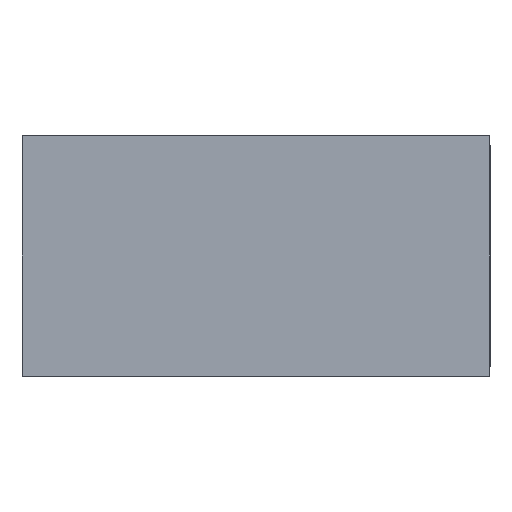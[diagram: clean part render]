
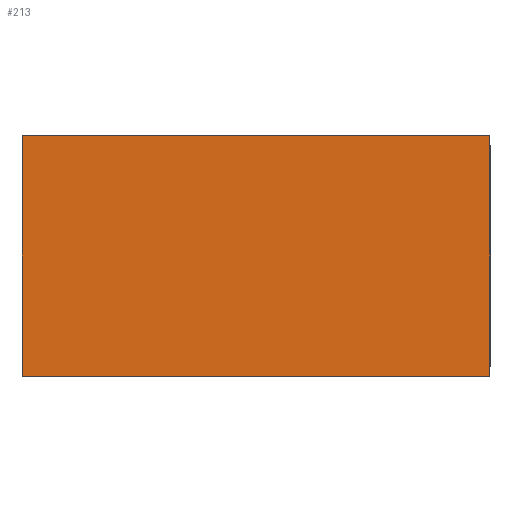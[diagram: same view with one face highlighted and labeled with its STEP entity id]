
A CAD part, left-side view. The second image highlights one B-rep face of the part: STEP entity #213.
In plain terms, the highlighted planar face has unit normal (-1, 0, 0).
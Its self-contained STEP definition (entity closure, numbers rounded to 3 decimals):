
#27=CARTESIAN_POINT('',(2489.0,104.037,30.0));
#28=VERTEX_POINT('',#27);
#45=CARTESIAN_POINT('',(2489.0,104.037,130.0));
#46=VERTEX_POINT('',#45);
#53=CARTESIAN_POINT('',(2489.0,104.037,30.0));
#54=DIRECTION('',(0.0,0.0,1.0));
#55=VECTOR('',#54,1.);
#56=LINE('',#53,#55);
#57=EDGE_CURVE('',#28,#46,#56,.T.);
#132=CARTESIAN_POINT('',(2489.0,298.322,30.0));
#133=VERTEX_POINT('',#132);
#140=CARTESIAN_POINT('',(2489.0,298.322,130.0));
#141=VERTEX_POINT('',#140);
#142=CARTESIAN_POINT('',(2489.0,298.322,30.0));
#143=DIRECTION('',(0.0,0.0,1.0));
#144=VECTOR('',#143,1.);
#145=LINE('',#142,#144);
#146=EDGE_CURVE('',#133,#141,#145,.T.);
#192=CARTESIAN_POINT('',(2489.0,298.322,30.0));
#193=DIRECTION('',(-1.0,0.0,0.0));
#194=DIRECTION('',(0.0,-1.0,0.0));
#195=AXIS2_PLACEMENT_3D('',#192,#193,#194);
#196=PLANE('',#195);
#197=CARTESIAN_POINT('',(2489.0,298.322,30.0));
#198=DIRECTION('',(0.,-1.0,0.0));
#199=VECTOR('',#198,1.);
#200=LINE('',#197,#199);
#201=EDGE_CURVE('',#133,#28,#200,.T.);
#202=ORIENTED_EDGE('',*,*,#201,.T.);
#203=ORIENTED_EDGE('',*,*,#57,.T.);
#204=CARTESIAN_POINT('',(2489.0,298.322,130.0));
#205=DIRECTION('',(0.,-1.0,0.0));
#206=VECTOR('',#205,1.);
#207=LINE('',#204,#206);
#208=EDGE_CURVE('',#141,#46,#207,.T.);
#209=ORIENTED_EDGE('',*,*,#208,.F.);
#210=ORIENTED_EDGE('',*,*,#146,.F.);
#211=EDGE_LOOP('',(#202,#203,#209,#210));
#212=FACE_BOUND('',#211,.T.);
#213=ADVANCED_FACE('',(#212),#196,.T.);
